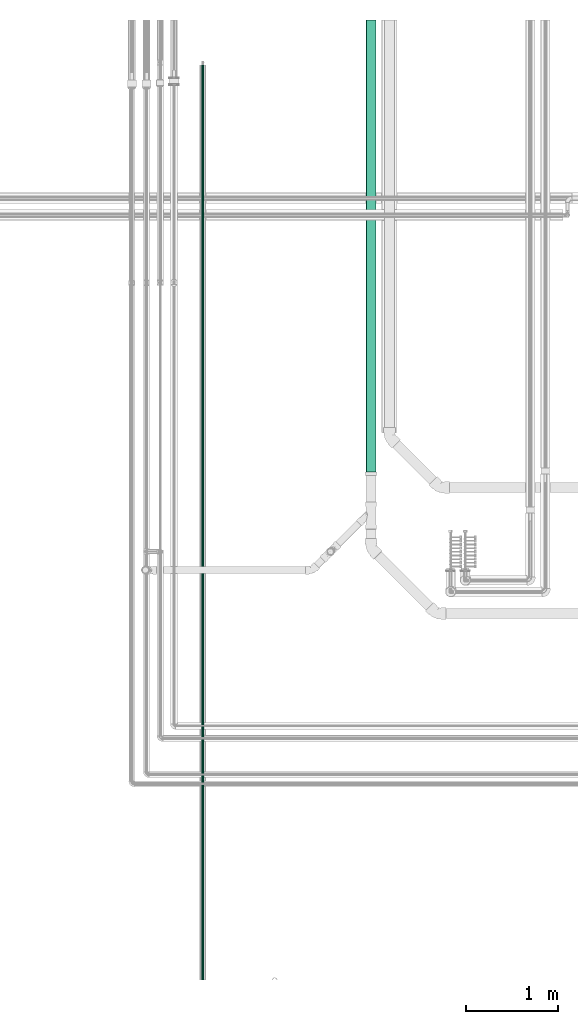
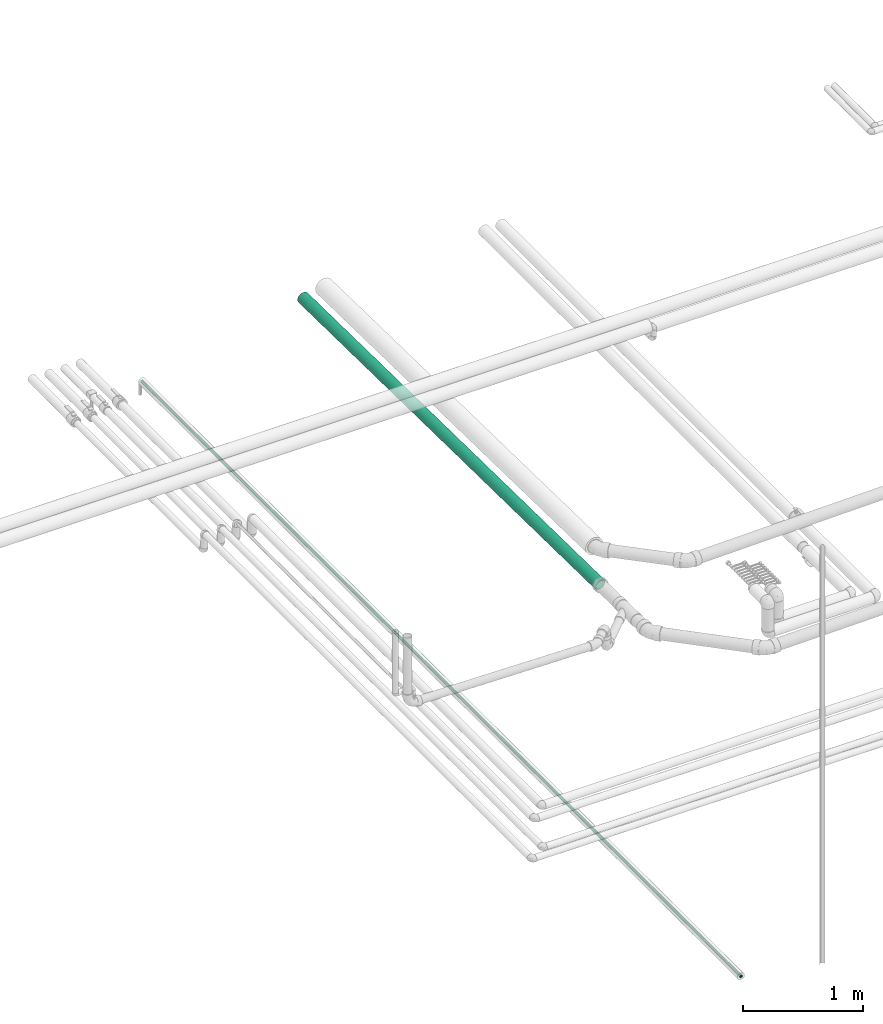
# One storey, part 51 of 83: 2 flow segments.
"""IFC2X3 building model written with IfcOpenShell, lengths in millimetres."""

import ifcopenshell
import ifcopenshell.guid

model = None  # the IFC model being written
_history = None  # IfcOwnerHistory: only IFC2X3 demands one
_inside = {}  # id of a spatial element -> (the spatial element, [elements in it])
_under = {}  # id of a project, library or spatial element -> (it, [spatial elements below it])
_declared = {}  # id of a project -> (the project, [libraries it declares])
_typed = {}  # id of a type object -> (the type object, [elements of that type])
_made_of = {}  # id of a material, layer set ... -> (it, [elements and type objects made of it])


def new_model(schema):
    """Start an empty IFC model of exactly this schema.

    Asked for "IFC4X3", IfcOpenShell would pick the latest addendum, in which some entities
    have other attributes; the version numbers below select the first issue.
    IFC2X3 requires an IfcOwnerHistory on every rooted entity: one is made here for all.
    """
    global model, _history
    if schema == "IFC4X3":
        model = ifcopenshell.file(schema_version=(4, 3, 0, 0))
    else:
        model = ifcopenshell.file(schema=schema)
    _inside.clear()
    _under.clear()
    _declared.clear()
    _typed.clear()
    _made_of.clear()
    _history = None
    if model.schema == "IFC2X3":
        org = make("IfcOrganization", Name="unknown")
        user = make(
            "IfcPersonAndOrganization",
            ThePerson=make("IfcPerson", FamilyName="unknown"),
            TheOrganization=org,
        )
        app = make(
            "IfcApplication",
            ApplicationDeveloper=org,
            Version="unknown",
            ApplicationFullName="unknown",
            ApplicationIdentifier="unknown",
        )
        _history = make(
            "IfcOwnerHistory",
            OwningUser=user,
            OwningApplication=app,
            ChangeAction="ADDED",
            CreationDate=0,
        )
    return model


def make(cls, **values):
    """One entity of the class cls with the attributes given. An attribute that is None is left unset."""
    return model.create_entity(
        cls, **{name: value for name, value in values.items() if value is not None}
    )


def entity(cls, *values):
    """Any entity or typed value of the class cls, its attributes in the order of the schema. None: left unset."""
    e = model.create_entity(cls)
    for i, value in enumerate(values):
        if value is not None:
            e[i] = value
    return e


def rooted(cls, **values):
    """An entity with a GlobalId (a new one), such as an element, a storey or a relation."""
    return make(cls, GlobalId=ifcopenshell.guid.new(), OwnerHistory=_history, **values)


def si_unit(unit_type, name, prefix=None):
    """IfcSIUnit, for example si_unit("LENGTHUNIT", "METRE", prefix="MILLI")."""
    return make("IfcSIUnit", UnitType=unit_type, Prefix=prefix, Name=name)


def converted_unit(unit_type, name, factor, base, dimensions=None, offset=None):
    """IfcConversionBasedUnit, such as the inch: factor (a typed value) times the base unit."""
    return make(
        "IfcConversionBasedUnit"
        if offset is None
        else "IfcConversionBasedUnitWithOffset",
        ConversionOffset=offset,
        Dimensions=None
        if dimensions is None
        else entity("IfcDimensionalExponents", *dimensions),
        UnitType=unit_type,
        Name=name,
        ConversionFactor=make(
            "IfcMeasureWithUnit", ValueComponent=factor, UnitComponent=base
        ),
    )


def derived_unit(unit_type, elements):
    """IfcDerivedUnit: a product of units, each with its exponent."""
    return make(
        "IfcDerivedUnit",
        Elements=[
            make("IfcDerivedUnitElement", Unit=unit, Exponent=power)
            for unit, power in elements
        ],
        UnitType=unit_type,
    )


def assignment(units):
    """IfcUnitAssignment: the units of a project."""
    return None if units is None else make("IfcUnitAssignment", Units=units)


def point(xyz):
    """IfcCartesianPoint."""
    return None if xyz is None else make("IfcCartesianPoint", Coordinates=xyz)


def direction(xyz):
    """IfcDirection."""
    return None if xyz is None else make("IfcDirection", DirectionRatios=xyz)


def frame(location, z_axis=None, x_axis=None):
    """IfcAxis2Placement3D, a coordinate frame: its origin and axes. An axis left out is left unset."""
    return make(
        "IfcAxis2Placement3D",
        Location=point(location),
        Axis=direction(z_axis),
        RefDirection=direction(x_axis),
    )


def place(relative_to, where):
    """IfcLocalPlacement: puts the frame where relative to a parent placement (None: the world)."""
    return make(
        "IfcLocalPlacement", PlacementRelTo=relative_to, RelativePlacement=where
    )


def context(
    kind, dimensions, precision=None, world=None, true_north=None, identifier=None
):
    """IfcGeometricRepresentationContext, for example the 3D "Model" context."""
    return make(
        "IfcGeometricRepresentationContext",
        ContextIdentifier=identifier,
        ContextType=kind,
        CoordinateSpaceDimension=dimensions,
        Precision=precision,
        WorldCoordinateSystem=world,
        TrueNorth=true_north,
    )


def subcontext(parent, identifier, kind, view, scale=None):
    """IfcGeometricRepresentationSubContext, for example "Body" below "Model"."""
    return make(
        "IfcGeometricRepresentationSubContext",
        ContextIdentifier=identifier,
        ContextType=kind,
        ParentContext=parent,
        TargetScale=scale,
        TargetView=view,
    )


def project(units=None, contexts=None):
    """IfcProject with its units and contexts."""
    return rooted(
        "IfcProject",
        Name="project",
        RepresentationContexts=contexts,
        UnitsInContext=assignment(units),
    )


def spatial(cls, under=None, at=None, **own):
    """A site, building, storey or space (cls), placed at a placement, below another one or the project."""
    s = rooted(cls, ObjectPlacement=at, **own)
    if under is not None:
        _under.setdefault(under.id(), (under, []))[1].append(s)
    return s


def faces_of(points, faces, orient=None, outer=None):
    """IfcFace entities. A face is a list of loops; a loop is a list of indices into points, from 0.

    orient and outer hold one flag for each loop. By default every Orientation is true, the
    first loop of a face is its IfcFaceOuterBound and the others are IfcFaceBound.
    """
    made = []
    for i, loops in enumerate(faces):
        bounds = []
        for j, loop in enumerate(loops):
            is_outer = j == 0 if outer is None else outer[i][j]
            bounds.append(
                make(
                    "IfcFaceOuterBound" if is_outer else "IfcFaceBound",
                    Bound=make("IfcPolyLoop", Polygon=[points[k] for k in loop]),
                    Orientation=True if orient is None else orient[i][j],
                )
            )
        made.append(make("IfcFace", Bounds=bounds))
    return made


def faceted_brep(points, faces, orient=None, outer=None, voids=None):
    """IfcFacetedBrep: a solid bounded by flat faces; with voids (closed shells), ...WithVoids."""
    shared = [point(p) for p in points]
    hull = make("IfcClosedShell", CfsFaces=faces_of(shared, faces, orient, outer))
    if voids is None:
        return make("IfcFacetedBrep", Outer=hull)
    return make(
        "IfcFacetedBrepWithVoids",
        Outer=hull,
        Voids=[
            make(cls, CfsFaces=faces_of(shared, fs, o, b)) for cls, fs, o, b in voids
        ],
    )


def shape(context_of_items, identifier, shape_type, items):
    """IfcShapeRepresentation: the items that make up one representation, for example the "Body"."""
    return make(
        "IfcShapeRepresentation",
        ContextOfItems=context_of_items,
        RepresentationIdentifier=identifier,
        RepresentationType=shape_type,
        Items=items,
    )


def made_of(thing, what):
    """Note that an element or type object is made of a material, layer set ...; save() writes the relation."""
    if what is not None:
        _made_of.setdefault(what.id(), (what, []))[1].append(thing)
    return thing


def type_object(cls, material=None, **own):
    """A type object (cls), such as IfcWallType, which elements share."""
    return made_of(rooted(cls, **own), material)


def element(
    cls,
    number,
    at=None,
    inside=None,
    cuts=None,
    type_object=None,
    material=None,
    context=None,
    identifier="Body",
    shape_type=None,
    held_by="IfcProductDefinitionShape",
    body=None,
    shapes=None,
    **own,
):
    """One element of the class cls, such as IfcWall. Its Tag is "e" and its number.

    at: its placement. inside: the storey or other place that contains it. cuts: it is an
    opening in that element (IfcRelVoidsElement). A single representation is given by context,
    identifier, shape_type and body (its items); several are given by shapes. held_by: the class
    of the entity that holds the representations. save() writes the other relations.
    """
    e = rooted(cls, Tag="e%d" % number, ObjectPlacement=at, **own)
    if body is not None:
        shapes = [shape(context, identifier, shape_type, body)]
    if shapes is not None:
        e.Representation = make(held_by, Representations=shapes)
    if inside is not None:
        _inside.setdefault(inside.id(), (inside, []))[1].append(e)
    if cuts is not None:
        rooted(
            "IfcRelVoidsElement", RelatingBuildingElement=cuts, RelatedOpeningElement=e
        )
    if type_object is not None:
        _typed.setdefault(type_object.id(), (type_object, []))[1].append(e)
    return made_of(e, material)


def aggregate(whole, parts):
    """IfcRelAggregates: a whole, such as a stair, and the parts it consists of."""
    return rooted("IfcRelAggregates", RelatingObject=whole, RelatedObjects=parts)


def save(model, path):
    """Write the relations noted so far, then the file.

    IfcRelAggregates (storeys below a building ...), IfcRelContainedInSpatialStructure (elements
    in a storey), IfcRelDefinesByType, IfcRelAssociatesMaterial and IfcRelDeclares: one each for
    every whole, place, type object, material and project.
    """
    for whole, parts in _under.values():
        aggregate(whole, parts)
    for where, things in _inside.values():
        rooted(
            "IfcRelContainedInSpatialStructure",
            RelatedElements=things,
            RelatingStructure=where,
        )
    for kind, things in _typed.values():
        rooted("IfcRelDefinesByType", RelatedObjects=things, RelatingType=kind)
    for what, things in _made_of.values():
        rooted("IfcRelAssociatesMaterial", RelatedObjects=things, RelatingMaterial=what)
    for by, libraries in _declared.values():
        rooted("IfcRelDeclares", RelatingContext=by, RelatedDefinitions=libraries)
    model.write(path)


model = new_model("IFC2X3")

# Units and contexts
model_context = context("Model", 3, precision=0.01, world=frame((0.0, 4.29681676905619e-09, 0.0)), true_north=direction((4.01073788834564e-13, 1.0)))
plan_context = context("Plan", 3, precision=0.01, world=frame((0.0, 4.29681676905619e-09, 0.0)), true_north=direction((4.01073788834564e-13, 1.0)))
body_context = subcontext(model_context, "Body", "Model", "MODEL_VIEW")
ifc_project = project(units=[converted_unit("PLANEANGLEUNIT", "DEGREE", entity("IfcPositiveLengthMeasure", 0.0174532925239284), si_unit("PLANEANGLEUNIT", "RADIAN"), dimensions=[0, 0, 0, 0, 0, 0, 0]), si_unit("AREAUNIT", "SQUARE_METRE"), si_unit("LENGTHUNIT", "METRE", prefix="MILLI"), si_unit("MASSUNIT", "GRAM", prefix="KILO"), si_unit("POWERUNIT", "WATT"), si_unit("PRESSUREUNIT", "PASCAL"), si_unit("FORCEUNIT", "NEWTON", prefix="KILO"), si_unit("ELECTRICVOLTAGEUNIT", "VOLT"), si_unit("ELECTRICCURRENTUNIT", "AMPERE"), si_unit("THERMODYNAMICTEMPERATUREUNIT", "DEGREE_CELSIUS"), si_unit("TIMEUNIT", "SECOND"), si_unit("VOLUMEUNIT", "CUBIC_METRE"), derived_unit("LINEARVELOCITYUNIT", [(si_unit("LENGTHUNIT", "METRE"), 1), (si_unit("TIMEUNIT", "SECOND"), -1)]), derived_unit("VOLUMETRICFLOWRATEUNIT", [(si_unit("VOLUMEUNIT", "CUBIC_METRE"), 1), (si_unit("TIMEUNIT", "SECOND"), -1)]), derived_unit("THERMALTRANSMITTANCEUNIT", [(si_unit("POWERUNIT", "WATT"), 1), (si_unit("THERMODYNAMICTEMPERATUREUNIT", "KELVIN"), -1), (si_unit("AREAUNIT", "SQUARE_METRE"), -1)]), derived_unit("SOUNDPRESSUREUNIT", [(si_unit("PRESSUREUNIT", "PASCAL"), 1)])], contexts=[model_context, plan_context])

# Site, building, storey
site_placement = place(None, frame((0.0, -4.29681676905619e-09, 0.0), z_axis=(0.0, 0.0, 1.0), x_axis=(1.0, 0.0, 0.0)))
site = spatial("IfcSite", under=ifc_project, at=site_placement, Name="ENGM", CompositionType="ELEMENT")
building_placement = place(site_placement, frame((0.0, 4.29681676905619e-09, 0.0), z_axis=(0.0, 0.0, 1.0), x_axis=(1.0, 0.0, 0.0)))
building = spatial("IfcBuilding", under=site, at=building_placement, Name="TI", CompositionType="ELEMENT")
storey_placement = place(building_placement, frame((0.0, 0.0, 204000.0), z_axis=(0.0, 0.0, 1.0), x_axis=(1.0, 0.0, 0.0)))
storey = spatial("IfcBuildingStorey", under=building, at=storey_placement, Name="Nivå D", CompositionType="ELEMENT", Elevation=204000.0)

# Flow segments
pipe_segment_type_1 = type_object("IfcPipeSegmentType", Name="Kobberrør", PredefinedType="RIGIDSEGMENT")
flow_segment_1_placement = place(storey_placement, frame((600346.50429, 688644.14881, 6052.50364000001), z_axis=(0.0, 2.89999999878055e-05, 0.9999999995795), x_axis=(0.0, 0.9999999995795, -2.89999999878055e-05)))
element("IfcFlowSegment", 1, at=flow_segment_1_placement, inside=storey, type_object=pipe_segment_type_1, Name="Kobberrør", context=body_context, shape_type="Brep", body=[
    faceted_brep([(355.730912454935, 11.8176930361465, -2.08377813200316), (355.730912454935, 12.0, 0.0), (10341.4, 12.0, 0.0), (10341.4, 11.8176930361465, -2.08377813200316), (355.730912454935, 11.2763114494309, -4.10424171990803), (10341.4, 11.2763114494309, -4.10424171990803), (355.730912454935, 10.3923048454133, -6.00000000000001), (10341.4, 10.3923048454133, -6.00000000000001), (355.754611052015, 9.19253331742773, -7.71345131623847), (10341.4, 9.19253331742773, -7.71345131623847), (355.783631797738, 7.71345131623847, -9.19253331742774), (10341.4, 7.71345131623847, -9.19253331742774), (355.80396520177, 6.0, -10.3923048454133), (10341.4, 6.0, -10.3923048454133), (355.819841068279, 4.10424171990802, -11.2763114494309), (10341.4, 4.10424171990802, -11.2763114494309), (355.83331547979, 2.08377813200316, -11.8176930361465), (10341.4, 2.08377813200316, -11.8176930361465), (355.845584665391, -2.20436423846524e-15, -12.0), (10341.4, -2.20436423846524e-15, -12.0), (355.851532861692, -2.08377813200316, -11.8176930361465), (10341.4, -2.08377813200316, -11.8176930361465), (355.851517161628, -4.10424171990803, -11.2763114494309), (10341.4, -4.10424171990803, -11.2763114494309), (355.730912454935, -6.00000000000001, -10.3923048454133), (10341.4, -6.00000000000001, -10.3923048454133), (355.730912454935, -7.71345131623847, -9.19253331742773), (10341.4, -7.71345131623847, -9.19253331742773), (355.730912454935, -9.19253331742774, -7.71345131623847), (10341.4, -9.19253331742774, -7.71345131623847), (355.730912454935, -10.3923048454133, -6.0), (10341.4, -10.3923048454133, -6.0), (355.730912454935, -11.2763114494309, -4.10424171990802), (10341.4, -11.2763114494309, -4.10424171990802), (355.730912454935, -11.8176930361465, -2.08377813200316), (10341.4, -11.8176930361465, -2.08377813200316), (355.730912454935, -12.0, 1.46957615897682e-15), (10341.4, -12.0, 1.46957615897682e-15), (355.730912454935, -11.8176930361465, 2.08377813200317), (10341.4, -11.8176930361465, 2.08377813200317), (355.730912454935, -11.2763114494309, 4.10424171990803), (10341.4, -11.2763114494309, 4.10424171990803), (355.730912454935, -10.3923048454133, 6.0), (10341.4, -10.3923048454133, 6.0), (355.753402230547, -9.19253331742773, 7.71345131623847), (10341.4, -9.19253331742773, 7.71345131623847), (355.782651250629, -7.71345131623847, 9.19253331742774), (10341.4, -7.71345131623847, 9.19253331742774), (355.803118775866, -6.0, 10.3923048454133), (10341.4, -6.0, 10.3923048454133), (355.819076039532, -4.10424171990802, 11.2763114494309), (10341.4, -4.10424171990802, 11.2763114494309), (355.832597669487, -2.08377813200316, 11.8176930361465), (10341.4, -2.08377813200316, 11.8176930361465), (355.844888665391, 7.34788079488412e-16, 12.0), (10341.4, 7.34788079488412e-16, 12.0), (355.850847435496, 2.08377813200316, 11.8176930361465), (10341.4, 2.08377813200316, 11.8176930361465), (355.850863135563, 4.10424171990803, 11.2763114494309), (10341.4, 4.10424171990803, 11.2763114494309), (355.730912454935, 6.0, 10.3923048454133), (10341.4, 6.0, 10.3923048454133), (355.730912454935, 7.71345131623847, 9.19253331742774), (10341.4, 7.71345131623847, 9.19253331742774), (355.730912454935, 9.19253331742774, 7.71345131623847), (10341.4, 9.19253331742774, 7.71345131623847), (355.730912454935, 10.3923048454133, 6.0), (10341.4, 10.3923048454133, 6.0), (355.730912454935, 11.2763114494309, 4.10424171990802), (10341.4, 11.2763114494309, 4.10424171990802), (355.730912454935, 11.8176930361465, 2.08377813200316), (10341.4, 11.8176930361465, 2.08377813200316), (355.730912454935, 14.0, 0.0), (355.730912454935, 13.7873085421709, -2.43107448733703), (10341.4, 13.7873085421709, -2.43107448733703), (10341.4, 14.0, 0.0), (355.730912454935, 13.7873085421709, 2.43107448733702), (10341.4, 13.7873085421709, 2.43107448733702), (355.730912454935, 13.1556966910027, 4.78828200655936), (10341.4, 13.1556966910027, 4.78828200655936), (355.730912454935, 12.1243556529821, 7.0), (10341.4, 12.1243556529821, 7.0), (355.730912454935, 10.7246222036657, 8.99902653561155), (10341.4, 10.7246222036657, 8.99902653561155), (355.730912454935, 8.99902653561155, 10.7246222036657), (10341.4, 8.99902653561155, 10.7246222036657), (355.730912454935, 7.0, 12.1243556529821), (10341.4, 7.0, 12.1243556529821), (355.730912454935, 4.78828200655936, 13.1556966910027), (10341.4, 4.78828200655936, 13.1556966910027), (355.850790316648, 2.43107448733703, 13.7873085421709), (10341.4, 2.43107448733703, 13.7873085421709), (355.850784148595, 8.57252759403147e-16, 14.0), (10341.4, 8.57252759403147e-16, 14.0), (355.844830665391, -2.43107448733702, 13.7873085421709), (10341.4, -2.43107448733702, 13.7873085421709), (355.832537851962, -4.78828200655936, 13.1556966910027), (10341.4, -4.78828200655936, 13.1556966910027), (355.819012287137, -7.0, 12.1243556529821), (10341.4, -7.0, 12.1243556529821), (355.803048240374, -8.99902653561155, 10.7246222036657), (10341.4, -8.99902653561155, 10.7246222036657), (355.782569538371, -10.7246222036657, 8.99902653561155), (10341.4, -10.7246222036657, 8.99902653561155), (355.753301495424, -12.1243556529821, 7.0), (10341.4, -12.1243556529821, 7.0), (355.730912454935, -13.1556966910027, 4.78828200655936), (10341.4, -13.1556966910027, 4.78828200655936), (355.730912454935, -13.7873085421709, 2.43107448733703), (10341.4, -13.7873085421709, 2.43107448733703), (355.730912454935, -14.0, 1.71450551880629e-15), (10341.4, -14.0, 1.71450551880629e-15), (355.730912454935, -13.7873085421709, -2.43107448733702), (10341.4, -13.7873085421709, -2.43107448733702), (355.730912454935, -13.1556966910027, -4.78828200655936), (10341.4, -13.1556966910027, -4.78828200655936), (355.730912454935, -12.1243556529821, -7.0), (10341.4, -12.1243556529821, -7.0), (355.730912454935, -10.7246222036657, -8.99902653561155), (10341.4, -10.7246222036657, -8.99902653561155), (355.730912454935, -8.99902653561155, -10.7246222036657), (10341.4, -8.99902653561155, -10.7246222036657), (355.730912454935, -7.00000000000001, -12.1243556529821), (10341.4, -7.00000000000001, -12.1243556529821), (355.730912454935, -4.78828200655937, -13.1556966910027), (10341.4, -4.78828200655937, -13.1556966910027), (355.851589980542, -2.43107448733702, -13.7873085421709), (10341.4, -2.43107448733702, -13.7873085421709), (355.851596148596, -2.57175827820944e-15, -14.0), (10341.4, -2.57175827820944e-15, -14.0), (355.845642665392, 2.43107448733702, -13.7873085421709), (10341.4, 2.43107448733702, -13.7873085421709), (355.833375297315, 4.78828200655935, -13.1556966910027), (10341.4, 4.78828200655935, -13.1556966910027), (355.819904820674, 7.0, -12.1243556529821), (10341.4, 7.0, -12.1243556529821), (355.804035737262, 8.99902653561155, -10.7246222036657), (10341.4, 8.99902653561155, -10.7246222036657), (355.783713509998, 10.7246222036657, -8.99902653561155), (10341.4, 10.7246222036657, -8.99902653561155), (355.754711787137, 12.1243556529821, -7.00000000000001), (10341.4, 12.1243556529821, -7.00000000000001), (355.730912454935, 13.1556966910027, -4.78828200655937), (10341.4, 13.1556966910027, -4.78828200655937), (355.851119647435, 13.7873085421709, 2.43107448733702), (355.851051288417, 13.1556966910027, 4.78828200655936), (355.850987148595, 12.1243556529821, 7.0), (355.850929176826, 10.7246222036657, 8.99902653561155), (355.850879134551, 8.99902653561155, 10.7246222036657), (355.850838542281, 7.0, 12.1243556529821), (355.850808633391, 4.78828200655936, 13.1556966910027), (355.850790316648, -2.43107448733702, 13.7873085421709), (355.850808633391, -4.78828200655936, 13.1556966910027), (355.850838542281, -7.0, 12.1243556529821), (355.850879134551, -8.99902653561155, 10.7246222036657), (355.850929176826, -10.7246222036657, 8.99902653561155), (355.850987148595, -12.1243556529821, 7.0), (355.851051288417, -13.1556966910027, 4.78828200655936), (355.851119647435, -13.7873085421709, 2.43107448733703), (355.851190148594, -14.0, 1.71450551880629e-15), (355.851260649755, -13.7873085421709, -2.43107448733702), (355.851329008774, -13.1556966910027, -4.78828200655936), (355.851393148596, -12.1243556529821, -7.0), (355.851451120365, -10.7246222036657, -8.99902653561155), (355.851501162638, -8.99902653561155, -10.7246222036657), (355.85154175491, -7.00000000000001, -12.1243556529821), (355.8515716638, -4.78828200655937, -13.1556966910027), (355.851589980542, 2.43107448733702, -13.7873085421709), (355.8515716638, 4.78828200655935, -13.1556966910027), (355.85154175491, 7.0, -12.1243556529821), (355.851501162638, 8.99902653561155, -10.7246222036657), (355.851451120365, 10.7246222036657, -8.99902653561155), (355.851393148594, 12.1243556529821, -7.00000000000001), (355.851329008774, 13.1556966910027, -4.78828200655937), (355.851260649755, 13.7873085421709, -2.43107448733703), (355.851190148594, 14.0, 0.0), (355.851309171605, 11.2763114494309, -4.10424171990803), (355.851364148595, 10.3923048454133, -6.00000000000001), (355.851413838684, 9.19253331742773, -7.71345131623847), (355.851456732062, 7.71345131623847, -9.19253331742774), (355.851491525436, 6.0, -10.3923048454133), (355.851517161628, 4.10424171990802, -11.2763114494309), (355.851532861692, 2.08377813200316, -11.8176930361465), (355.851538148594, -2.20436423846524e-15, -12.0), (355.851491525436, -6.00000000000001, -10.3923048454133), (355.851456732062, -7.71345131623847, -9.19253331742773), (355.851413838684, -9.19253331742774, -7.71345131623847), (355.851364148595, -10.3923048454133, -6.0), (355.851309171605, -11.2763114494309, -4.10424171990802), (355.85125057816, -11.8176930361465, -2.08377813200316), (355.851190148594, -12.0, 1.46957615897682e-15), (355.851129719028, -11.8176930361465, 2.08377813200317), (355.851071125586, -11.2763114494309, 4.10424171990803), (355.851016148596, -10.3923048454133, 6.0), (355.850966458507, -9.19253331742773, 7.71345131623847), (355.850923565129, -7.71345131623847, 9.19253331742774), (355.850888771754, -6.0, 10.3923048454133), (355.850863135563, -4.10424171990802, 11.2763114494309), (355.850847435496, -2.08377813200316, 11.8176930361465), (355.850842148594, 7.34788079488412e-16, 12.0), (355.850888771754, 6.0, 10.3923048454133), (355.850923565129, 7.71345131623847, 9.19253331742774), (355.850966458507, 9.19253331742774, 7.71345131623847), (355.851016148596, 10.3923048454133, 6.0), (355.851071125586, 11.2763114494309, 4.10424171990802), (355.851129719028, 11.8176930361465, 2.08377813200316), (355.851190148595, 12.0, 0.0), (355.85125057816, 11.8176930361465, -2.08377813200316)], [[[0, 1, 2, 3]], [[4, 0, 3, 5]], [[6, 4, 5, 7]], [[8, 6, 7, 9]], [[10, 8, 9, 11]], [[12, 10, 11, 13]], [[14, 12, 13, 15]], [[16, 14, 15, 17]], [[18, 16, 17, 19]], [[20, 18, 19, 21]], [[22, 20, 21, 23]], [[24, 22, 23, 25]], [[26, 24, 25, 27]], [[28, 26, 27, 29]], [[30, 28, 29, 31]], [[32, 30, 31, 33]], [[34, 32, 33, 35]], [[36, 34, 35, 37]], [[38, 36, 37, 39]], [[40, 38, 39, 41]], [[42, 40, 41, 43]], [[44, 42, 43, 45]], [[46, 44, 45, 47]], [[48, 46, 47, 49]], [[50, 48, 49, 51]], [[52, 50, 51, 53]], [[54, 52, 53, 55]], [[56, 54, 55, 57]], [[58, 56, 57, 59]], [[60, 58, 59, 61]], [[62, 60, 61, 63]], [[64, 62, 63, 65]], [[66, 64, 65, 67]], [[68, 66, 67, 69]], [[70, 68, 69, 71]], [[1, 70, 71, 2]], [[72, 73, 74, 75]], [[76, 72, 75, 77]], [[78, 76, 77, 79]], [[80, 78, 79, 81]], [[82, 80, 81, 83]], [[84, 82, 83, 85]], [[86, 84, 85, 87]], [[88, 86, 87, 89]], [[90, 88, 89, 91]], [[92, 90, 91, 93]], [[94, 92, 93, 95]], [[96, 94, 95, 97]], [[98, 96, 97, 99]], [[100, 98, 99, 101]], [[102, 100, 101, 103]], [[104, 102, 103, 105]], [[106, 104, 105, 107]], [[108, 106, 107, 109]], [[110, 108, 109, 111]], [[112, 110, 111, 113]], [[114, 112, 113, 115]], [[116, 114, 115, 117]], [[118, 116, 117, 119]], [[120, 118, 119, 121]], [[122, 120, 121, 123]], [[124, 122, 123, 125]], [[126, 124, 125, 127]], [[128, 126, 127, 129]], [[130, 128, 129, 131]], [[132, 130, 131, 133]], [[134, 132, 133, 135]], [[136, 134, 135, 137]], [[138, 136, 137, 139]], [[140, 138, 139, 141]], [[142, 140, 141, 143]], [[73, 142, 143, 74]], [[75, 74, 143, 141, 139, 137, 135, 133, 131, 129, 127, 125, 123, 121, 119, 117, 115, 113, 111, 109, 107, 105, 103, 101, 99, 97, 95, 93, 91, 89, 87, 85, 83, 81, 79, 77], [2, 71, 69, 67, 65, 63, 61, 59, 57, 55, 53, 51, 49, 47, 45, 43, 41, 39, 37, 35, 33, 31, 29, 27, 25, 23, 21, 19, 17, 15, 13, 11, 9, 7, 5, 3]], [[144, 145, 146, 147, 148, 149, 150, 90, 92, 151, 152, 153, 154, 155, 156, 157, 158, 159, 160, 161, 162, 163, 164, 165, 166, 126, 128, 167, 168, 169, 170, 171, 172, 173, 174, 175], [176, 177, 178, 179, 180, 181, 182, 183, 20, 22, 184, 185, 186, 187, 188, 189, 190, 191, 192, 193, 194, 195, 196, 197, 198, 199, 56, 58, 200, 201, 202, 203, 204, 205, 206, 207]]], orient=[[False], [False], [False], [False], [False], [False], [False], [False], [False], [False], [False], [False], [False], [False], [False], [False], [False], [False], [False], [False], [False], [False], [False], [False], [False], [False], [False], [False], [False], [False], [False], [False], [False], [False], [False], [False], [False], [False], [False], [False], [False], [False], [False], [False], [False], [False], [False], [False], [False], [False], [False], [False], [False], [False], [False], [False], [False], [False], [False], [False], [False], [False], [False], [False], [False], [False], [False], [False], [False], [False], [False], [False], [False, False], [False, False]]),
])
pipe_segment_type_2 = type_object("IfcPipeSegmentType", Name="MA", PredefinedType="RIGIDSEGMENT")
flow_segment_2_placement = place(storey_placement, frame((602182.39912, 702054.57448, 5916.4442), z_axis=(-0.999976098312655, -0.000115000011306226, -0.00691300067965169), x_axis=(-2.2798979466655e-07, -0.999861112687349, 0.0166659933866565)))
element("IfcFlowSegment", 2, at=flow_segment_2_placement, inside=storey, type_object=pipe_segment_type_2, Name="MA", context=body_context, shape_type="Brep", body=[
    faceted_brep([(2580.30376750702, 52.194810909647, -9.20335341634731), (2580.31612979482, 53.0, 0.0), (7510.8, 53.0, 0.0), (7510.8, 52.194810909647, -9.20335341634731), (2580.26493919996, 49.8037089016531, -18.1270675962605), (7510.8, 49.8037089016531, -18.1270675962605), (2580.20082465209, 45.8993464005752, -26.5), (7510.8, 45.8993464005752, -26.5), (2580.11337195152, 40.6003554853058, -34.0677433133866), (7510.8, 40.6003554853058, -34.0677433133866), (2580.00523830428, 34.0677433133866, -40.6003554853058), (7510.8, 34.0677433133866, -40.6003554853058), (2579.87970929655, 26.5, -45.8993464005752), (7510.8, 26.5, -45.8993464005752), (2579.74059906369, 18.1270675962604, -49.8037089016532), (7510.8, 18.1270675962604, -49.8037089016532), (2579.59213439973, 9.20335341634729, -52.194810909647), (7510.8, 9.20335341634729, -52.194810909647), (2579.43882632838, -9.73594205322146e-15, -53.0), (7510.8, -9.73594205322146e-15, -53.0), (2579.28533303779, -9.20335341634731, -52.194810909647), (7510.8, -9.20335341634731, -52.194810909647), (2579.13631834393, -18.1270675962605, -49.8037089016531), (7510.8, -18.1270675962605, -49.8037089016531), (2578.99630998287, -26.5, -45.8993464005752), (7510.8, -26.5, -45.8993464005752), (2578.86956203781, -34.0677433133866, -40.6003554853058), (7510.8, -34.0677433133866, -40.6003554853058), (2578.75992568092, -40.6003554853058, -34.0677433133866), (7510.8, -40.6003554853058, -34.0677433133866), (2578.67073215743, -45.8993464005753, -26.5), (7510.8, -45.8993464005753, -26.5), (2578.60469156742, -49.8037089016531, -18.1270675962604), (7510.8, -49.8037089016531, -18.1270675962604), (2578.56381052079, -52.194810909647, -9.20335341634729), (7510.8, -52.194810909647, -9.20335341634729), (2578.54933116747, -53.0, 6.49062803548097e-15), (7510.8, -53.0, 6.49062803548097e-15), (2578.56169345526, -52.194810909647, 9.20335341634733), (7510.8, -52.194810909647, 9.20335341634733), (2578.60052176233, -49.8037089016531, 18.1270675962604), (7510.8, -49.8037089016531, 18.1270675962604), (2578.66463631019, -45.8993464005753, 26.5), (7510.8, -45.8993464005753, 26.5), (2578.75208901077, -40.6003554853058, 34.0677433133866), (7510.8, -40.6003554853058, 34.0677433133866), (2578.86022265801, -34.0677433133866, 40.6003554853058), (7510.8, -34.0677433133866, 40.6003554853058), (2578.98575166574, -26.5, 45.8993464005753), (7510.8, -26.5, 45.8993464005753), (2579.1248618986, -18.1270675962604, 49.8037089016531), (7510.8, -18.1270675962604, 49.8037089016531), (2579.27332656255, -9.20335341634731, 52.194810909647), (7510.8, -9.20335341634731, 52.194810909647), (2579.42663463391, 3.24531401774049e-15, 53.0), (7510.8, 3.24531401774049e-15, 53.0), (2579.5801279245, 9.20335341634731, 52.194810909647), (7510.8, 9.20335341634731, 52.194810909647), (2579.72914261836, 18.1270675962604, 49.8037089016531), (7510.8, 18.1270675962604, 49.8037089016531), (2579.86915097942, 26.5, 45.8993464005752), (7510.8, 26.5, 45.8993464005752), (2579.99589892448, 34.0677433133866, 40.6003554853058), (7510.8, 34.0677433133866, 40.6003554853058), (2580.10553528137, 40.6003554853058, 34.0677433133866), (7510.8, 40.6003554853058, 34.0677433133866), (2580.19472880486, 45.8993464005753, 26.5), (7510.8, 45.8993464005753, 26.5), (2580.26076939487, 49.8037089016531, 18.1270675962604), (7510.8, 49.8037089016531, 18.1270675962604), (2580.3016504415, 52.194810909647, 9.20335341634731), (7510.8, 52.194810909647, 9.20335341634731), (2580.34946561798, 55.0, 0.0), (2580.33663682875, 54.1644264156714, -9.55064977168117), (7510.8, 54.1644264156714, -9.55064977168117), (7510.8, 55.0, 0.0), (2580.33443987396, 54.1644264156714, 9.55064977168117), (7510.8, 54.1644264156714, 9.55064977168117), (2580.29201614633, 51.683094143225, 18.8111078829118), (7510.8, 51.683094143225, 18.8111078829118), (2580.22348345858, 47.6313972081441, 27.5), (7510.8, 47.6313972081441, 27.5), (2580.13092414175, 42.1324443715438, 35.3533185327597), (7510.8, 42.1324443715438, 35.3533185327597), (2580.01715056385, 35.3533185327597, 42.1324443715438), (7510.8, 35.3533185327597, 42.1324443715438), (2579.88561967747, 27.5, 47.6313972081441), (7510.8, 27.5, 47.6313972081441), (2579.74032798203, 18.8111078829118, 51.683094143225), (7510.8, 18.8111078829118, 51.683094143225), (2579.58569009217, 9.55064977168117, 54.1644264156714), (7510.8, 9.55064977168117, 54.1644264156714), (2579.42640460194, 3.36777869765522e-15, 55.0), (7510.8, 3.36777869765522e-15, 55.0), (2579.26731132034, -9.55064977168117, 54.1644264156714), (7510.8, -9.55064977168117, 54.1644264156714), (2579.11324421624, -18.8111078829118, 51.683094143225), (7510.8, -18.8111078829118, 51.683094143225), (2578.96888454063, -27.5, 47.6313972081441), (7510.8, -27.5, 47.6313972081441), (2578.83861858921, -35.3533185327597, 42.1324443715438), (7510.8, -35.3533185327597, 42.1324443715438), (2578.72640442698, -42.1324443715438, 35.3533185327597), (7510.8, -42.1324443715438, 35.3533185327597), (2578.6356516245, -47.6313972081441, 27.5), (7510.8, -47.6313972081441, 27.5), (2578.56911765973, -51.683094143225, 18.8111078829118), (7510.8, -51.683094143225, 18.8111078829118), (2578.52882413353, -54.1644264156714, 9.55064977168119), (7510.8, -54.1644264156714, 9.55064977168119), (2578.51599534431, -55.0, 6.73555739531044e-15), (7510.8, -55.0, 6.73555739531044e-15), (2578.53102108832, -54.1644264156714, -9.55064977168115), (7510.8, -54.1644264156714, -9.55064977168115), (2578.57344481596, -51.683094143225, -18.8111078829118), (7510.8, -51.683094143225, -18.8111078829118), (2578.64197750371, -47.6313972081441, -27.5), (7510.8, -47.6313972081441, -27.5), (2578.73453682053, -42.1324443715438, -35.3533185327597), (7510.8, -42.1324443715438, -35.3533185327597), (2578.84831039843, -35.3533185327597, -42.1324443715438), (7510.8, -35.3533185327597, -42.1324443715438), (2578.97984128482, -27.5, -47.6313972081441), (7510.8, -27.5, -47.6313972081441), (2579.12513298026, -18.8111078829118, -51.6830941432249), (7510.8, -18.8111078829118, -51.6830941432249), (2579.27977087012, -9.55064977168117, -54.1644264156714), (7510.8, -9.55064977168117, -54.1644264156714), (2579.43905636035, -1.01033360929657e-14, -55.0), (7510.8, -1.01033360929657e-14, -55.0), (2579.59814964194, 9.55064977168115, -54.1644264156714), (7510.8, 9.55064977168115, -54.1644264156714), (2579.75221674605, 18.8111078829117, -51.683094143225), (7510.8, 18.8111078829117, -51.683094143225), (2579.89657642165, 27.5, -47.6313972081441), (7510.8, 27.5, -47.6313972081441), (2580.02684237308, 35.3533185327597, -42.1324443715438), (7510.8, 35.3533185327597, -42.1324443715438), (2580.1390565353, 42.1324443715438, -35.3533185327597), (7510.8, 42.1324443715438, -35.3533185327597), (2580.22980933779, 47.6313972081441, -27.5), (7510.8, 47.6313972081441, -27.5), (2580.29634330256, 51.6830941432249, -18.8111078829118), (7510.8, 51.6830941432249, -18.8111078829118)], [[[0, 1, 2, 3]], [[4, 0, 3, 5]], [[6, 4, 5, 7]], [[8, 6, 7, 9]], [[10, 8, 9, 11]], [[12, 10, 11, 13]], [[14, 12, 13, 15]], [[16, 14, 15, 17]], [[18, 16, 17, 19]], [[20, 18, 19, 21]], [[22, 20, 21, 23]], [[24, 22, 23, 25]], [[26, 24, 25, 27]], [[28, 26, 27, 29]], [[30, 28, 29, 31]], [[32, 30, 31, 33]], [[34, 32, 33, 35]], [[36, 34, 35, 37]], [[38, 36, 37, 39]], [[40, 38, 39, 41]], [[42, 40, 41, 43]], [[44, 42, 43, 45]], [[46, 44, 45, 47]], [[48, 46, 47, 49]], [[50, 48, 49, 51]], [[52, 50, 51, 53]], [[54, 52, 53, 55]], [[56, 54, 55, 57]], [[58, 56, 57, 59]], [[60, 58, 59, 61]], [[62, 60, 61, 63]], [[64, 62, 63, 65]], [[66, 64, 65, 67]], [[68, 66, 67, 69]], [[70, 68, 69, 71]], [[1, 70, 71, 2]], [[72, 73, 74, 75]], [[76, 72, 75, 77]], [[78, 76, 77, 79]], [[80, 78, 79, 81]], [[82, 80, 81, 83]], [[84, 82, 83, 85]], [[86, 84, 85, 87]], [[88, 86, 87, 89]], [[90, 88, 89, 91]], [[92, 90, 91, 93]], [[94, 92, 93, 95]], [[96, 94, 95, 97]], [[98, 96, 97, 99]], [[100, 98, 99, 101]], [[102, 100, 101, 103]], [[104, 102, 103, 105]], [[106, 104, 105, 107]], [[108, 106, 107, 109]], [[110, 108, 109, 111]], [[112, 110, 111, 113]], [[114, 112, 113, 115]], [[116, 114, 115, 117]], [[118, 116, 117, 119]], [[120, 118, 119, 121]], [[122, 120, 121, 123]], [[124, 122, 123, 125]], [[126, 124, 125, 127]], [[128, 126, 127, 129]], [[130, 128, 129, 131]], [[132, 130, 131, 133]], [[134, 132, 133, 135]], [[136, 134, 135, 137]], [[138, 136, 137, 139]], [[140, 138, 139, 141]], [[142, 140, 141, 143]], [[73, 142, 143, 74]], [[75, 74, 143, 141, 139, 137, 135, 133, 131, 129, 127, 125, 123, 121, 119, 117, 115, 113, 111, 109, 107, 105, 103, 101, 99, 97, 95, 93, 91, 89, 87, 85, 83, 81, 79, 77], [2, 71, 69, 67, 65, 63, 61, 59, 57, 55, 53, 51, 49, 47, 45, 43, 41, 39, 37, 35, 33, 31, 29, 27, 25, 23, 21, 19, 17, 15, 13, 11, 9, 7, 5, 3]], [[76, 78, 80, 82, 84, 86, 88, 90, 92, 94, 96, 98, 100, 102, 104, 106, 108, 110, 112, 114, 116, 118, 120, 122, 124, 126, 128, 130, 132, 134, 136, 138, 140, 142, 73, 72], [4, 6, 8, 10, 12, 14, 16, 18, 20, 22, 24, 26, 28, 30, 32, 34, 36, 38, 40, 42, 44, 46, 48, 50, 52, 54, 56, 58, 60, 62, 64, 66, 68, 70, 1, 0]]], orient=[[False], [False], [False], [False], [False], [False], [False], [False], [False], [False], [False], [False], [False], [False], [False], [False], [False], [False], [False], [False], [False], [False], [False], [False], [False], [False], [False], [False], [False], [False], [False], [False], [False], [False], [False], [False], [False], [False], [False], [False], [False], [False], [False], [False], [False], [False], [False], [False], [False], [False], [False], [False], [False], [False], [False], [False], [False], [False], [False], [False], [False], [False], [False], [False], [False], [False], [False], [False], [False], [False], [False], [False], [False, False], [False, False]]),
])

save(model, "model.ifc")
